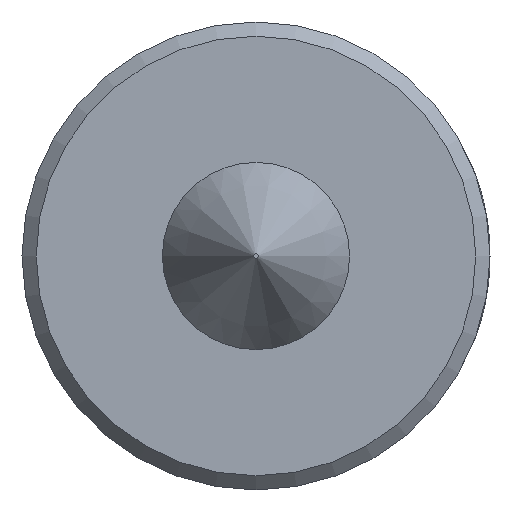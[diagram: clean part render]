
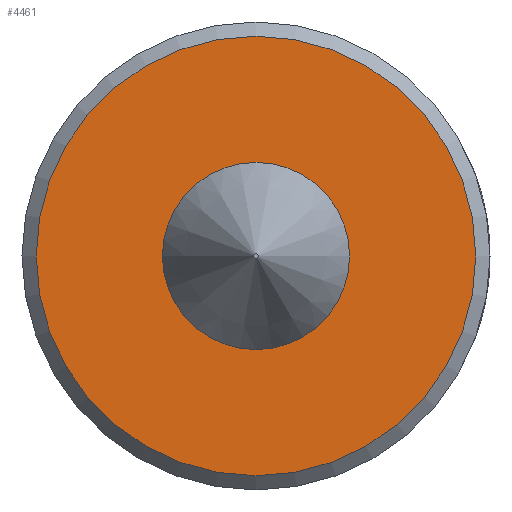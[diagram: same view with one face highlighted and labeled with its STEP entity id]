
A CAD part, left-side view. The second image highlights one B-rep face of the part: STEP entity #4461.
In plain terms, the highlighted planar face has unit normal (-1, 0, 0).
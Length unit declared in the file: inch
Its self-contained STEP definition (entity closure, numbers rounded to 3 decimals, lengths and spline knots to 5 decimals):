
#211=PLANE('',#4741);
#259=FACE_BOUND('',#939,.T.);
#672=FACE_OUTER_BOUND('',#938,.T.);
#938=EDGE_LOOP('',(#3117));
#939=EDGE_LOOP('',(#3118));
#1737=CIRCLE('',#4720,0.92441);
#1757=CIRCLE('',#4742,0.3937);
#1800=VERTEX_POINT('',#5372);
#1915=VERTEX_POINT('',#5889);
#2278=EDGE_CURVE('',#1800,#1800,#1737,.T.);
#2395=EDGE_CURVE('',#1915,#1915,#1757,.T.);
#3117=ORIENTED_EDGE('',*,*,#2278,.F.);
#3118=ORIENTED_EDGE('',*,*,#2395,.T.);
#4461=ADVANCED_FACE('',(#672,#259),#211,.F.);
#4720=AXIS2_PLACEMENT_3D('',#5373,#4850,#4851);
#4741=AXIS2_PLACEMENT_3D('',#5888,#4908,#4909);
#4742=AXIS2_PLACEMENT_3D('',#5890,#4910,#4911);
#4850=DIRECTION('center_axis',(1.,0.,0.));
#4851=DIRECTION('ref_axis',(0.,-1.,0.));
#4908=DIRECTION('center_axis',(1.,0.,0.));
#4909=DIRECTION('ref_axis',(0.,-1.,0.));
#4910=DIRECTION('center_axis',(1.,0.,0.));
#4911=DIRECTION('ref_axis',(0.,-1.,0.));
#5372=CARTESIAN_POINT('',(-5.62992,0.92441,0.));
#5373=CARTESIAN_POINT('Origin',(-5.62992,0.,
0.));
#5888=CARTESIAN_POINT('Origin',(-5.62992,0.,
-0.3937));
#5889=CARTESIAN_POINT('',(-5.62992,0.3937,0.));
#5890=CARTESIAN_POINT('Origin',(-5.62992,0.,
0.));
